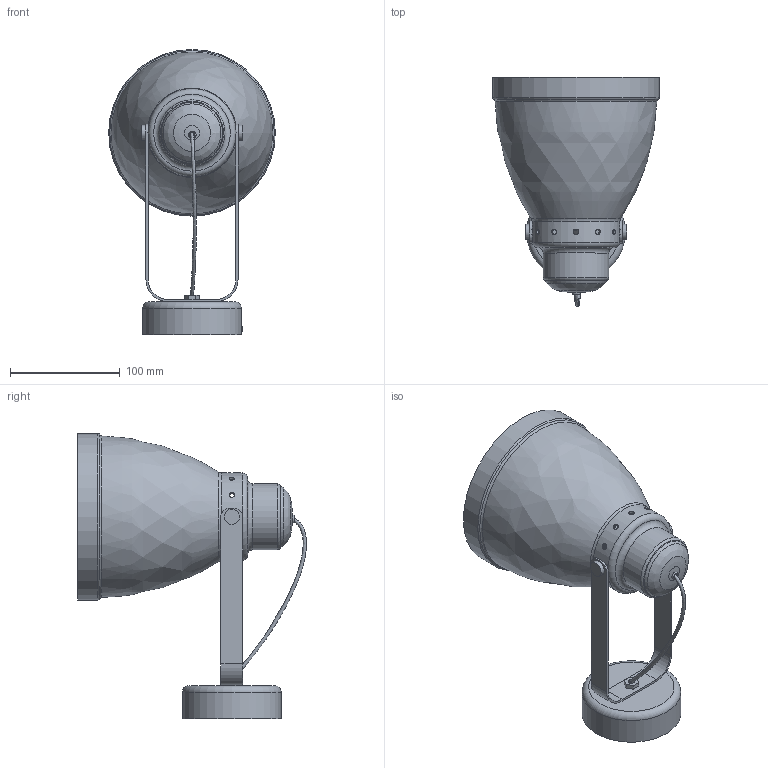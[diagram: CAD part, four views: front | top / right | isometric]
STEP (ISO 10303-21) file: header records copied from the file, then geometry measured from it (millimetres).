
FILE_DESCRIPTION(/* description */ (''),/* implementation_level */ '2;1');
FILE_NAME(/* name */ 'C:\Users\Dominika\Desktop\Modele CZARNY\T14\KINKIET T14.stp',/* time_stamp */ '2019-12-05T20:15:12+01:00',/* author */ ('Dominika'),/* organization */ (''),/* preprocessor_version */ 'ST-DEVELOPER v17',/* originating_system */ 'Autodesk Inventor 2019',/* authorisation */ '');
FILE_SCHEMA (('AUTOMOTIVE_DESIGN { 1 0 10303 214 3 1 1 }'));
Length unit declared in the file: millimetre
Products named in the file (15): KINKIET T14; T14 klosz; T14 mocowanie do ściany; T14 mocowanie klosza; t14 nakretka; sruba; T14 nakretka II; T14 kabel II; T14 tulejka; Assembly6; holder; Part71; Part72; fila; Part1
Assembly tree (15 placements, depth 3):
  KINKIET T14
    T14 klosz
    T14 mocowanie do ściany
    T14 mocowanie klosza
    t14 nakretka
    sruba
    T14 nakretka II  x2
    T14 kabel II
    T14 tulejka
    Assembly6
      holder
      Part71
      Part72
      fila
      Part1
Bounding box: 152 x 208.74 x 260 mm (x, y, z)
Volume: 218864.4 mm3; surface area: 224797.3 mm2
Topology: 12 solids, 14 shells, 749 faces, 1840 edges, 1120 vertices
Faces by surface type: cone 356, torus 210, bspline 64, cylinder 62, plane 57
Full cylindrical faces by diameter (mm): 0.3 x2, 0.32 x1, 0.5 x2, 1 x2, 2.5 x1, 4 x3, 5 x14, 6 x1, 8 x2, 10.744 x1, 14 x2, 15.635 x1, 22.827 x1, 34.949 x4, 37.2 x5, 55.999 x1, 59.999 x1, 76 x1, 80 x1, 86 x1, 90 x1, 148 x1, 152 x1
Entity records: 33792 total; most frequent: CARTESIAN_POINT 14620, DIRECTION 4135, ORIENTED_EDGE 3665, EDGE_CURVE 1835, AXIS2_PLACEMENT_3D 1772, VERTEX_POINT 1118, CIRCLE 1056, EDGE_LOOP 796
